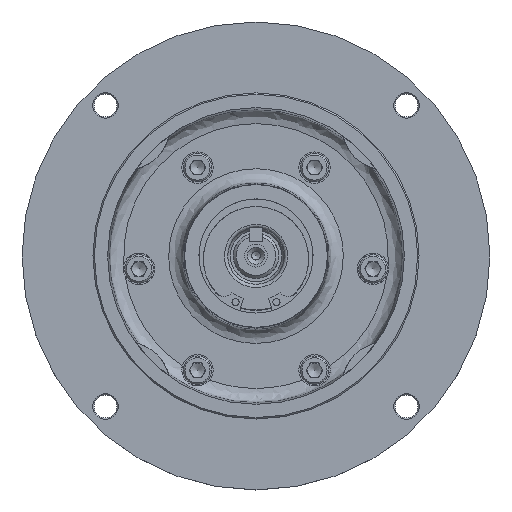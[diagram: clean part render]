
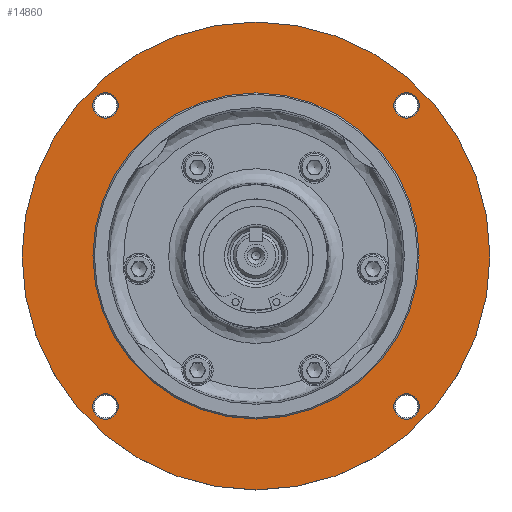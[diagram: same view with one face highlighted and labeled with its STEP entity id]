
A CAD part, top view. The second image highlights one B-rep face of the part: STEP entity #14860.
In plain terms, the highlighted planar face has unit normal (0, 0, 1).
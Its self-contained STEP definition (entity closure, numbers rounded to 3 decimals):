
#33 = EDGE_CURVE ( 'NONE', #14770, #14770, #4254, .T. ) ;
#166 = EDGE_LOOP ( 'NONE', ( #7629 ) ) ;
#421 = DIRECTION ( 'NONE',  ( 1., 0., 0. ) ) ;
#492 = VERTEX_POINT ( 'NONE', #7209 ) ;
#1576 = DIRECTION ( 'NONE',  ( 0., 0., -1. ) ) ;
#1926 = FACE_BOUND ( 'NONE', #10930, .T. ) ;
#1975 = CARTESIAN_POINT ( 'NONE',  ( 0., 4.5, 52.05 ) ) ;
#2028 = FACE_BOUND ( 'NONE', #6075, .T. ) ;
#2210 = EDGE_LOOP ( 'NONE', ( #14089 ) ) ;
#2262 = DIRECTION ( 'NONE',  ( 0., 0., -1. ) ) ;
#2457 = CARTESIAN_POINT ( 'NONE',  ( 0., 4.5, 52.05 ) ) ;
#2772 = AXIS2_PLACEMENT_3D ( 'NONE', #2457, #8075, #18154 ) ;
#3143 = CARTESIAN_POINT ( 'NONE',  ( 57.229, -48.26, 52.05 ) ) ;
#3576 = CIRCLE ( 'NONE', #9204, 4.469 ) ;
#4254 = CIRCLE ( 'NONE', #9233, 4.469 ) ;
#5356 = EDGE_CURVE ( 'NONE', #21763, #21763, #7435, .T. ) ;
#5480 = DIRECTION ( 'NONE',  ( 1., 0., 0. ) ) ;
#5661 = DIRECTION ( 'NONE',  ( 1., 0., 0. ) ) ;
#5886 = CIRCLE ( 'NONE', #18299, 4.469 ) ;
#6075 = EDGE_LOOP ( 'NONE', ( #15767 ) ) ;
#6865 = PLANE ( 'NONE',  #19877 ) ;
#7209 = CARTESIAN_POINT ( 'NONE',  ( -48.291, 57.26, 52.05 ) ) ;
#7435 = CIRCLE ( 'NONE', #18032, 4.469 ) ;
#7529 = EDGE_CURVE ( 'NONE', #20636, #20636, #18343, .T. ) ;
#7629 = ORIENTED_EDGE ( 'NONE', *, *, #7529, .T. ) ;
#8075 = DIRECTION ( 'NONE',  ( 0., 0., 1. ) ) ;
#8154 = EDGE_LOOP ( 'NONE', ( #18709 ) ) ;
#8661 = CARTESIAN_POINT ( 'NONE',  ( 57.15, 4.5, 52.05 ) ) ;
#8802 = AXIS2_PLACEMENT_3D ( 'NONE', #1975, #17007, #421 ) ;
#9204 = AXIS2_PLACEMENT_3D ( 'NONE', #16912, #20683, #5480 ) ;
#9233 = AXIS2_PLACEMENT_3D ( 'NONE', #11386, #18146, #16711 ) ;
#10930 = EDGE_LOOP ( 'NONE', ( #14093 ) ) ;
#11386 = CARTESIAN_POINT ( 'NONE',  ( -52.76, -48.26, 52.05 ) ) ;
#11490 = VERTEX_POINT ( 'NONE', #11596 ) ;
#11596 = CARTESIAN_POINT ( 'NONE',  ( 57.229, 57.26, 52.05 ) ) ;
#11971 = CARTESIAN_POINT ( 'NONE',  ( 0., 4.5, 52.05 ) ) ;
#12144 = EDGE_CURVE ( 'NONE', #492, #492, #5886, .T. ) ;
#12826 = ORIENTED_EDGE ( 'NONE', *, *, #5356, .T. ) ;
#13126 = CARTESIAN_POINT ( 'NONE',  ( -48.291, -48.26, 52.05 ) ) ;
#13201 = DIRECTION ( 'NONE',  ( 1., 0., 0. ) ) ;
#13295 = CARTESIAN_POINT ( 'NONE',  ( 82., 4.5, 52.05 ) ) ;
#13406 = CARTESIAN_POINT ( 'NONE',  ( 52.76, -48.26, 52.05 ) ) ;
#13432 = DIRECTION ( 'NONE',  ( 0., 0., 1. ) ) ;
#14089 = ORIENTED_EDGE ( 'NONE', *, *, #33, .T. ) ;
#14093 = ORIENTED_EDGE ( 'NONE', *, *, #12144, .T. ) ;
#14770 = VERTEX_POINT ( 'NONE', #13126 ) ;
#14860 = ADVANCED_FACE ( 'NONE', ( #15087, #1926, #2028, #18513, #18843, #15301 ), #6865, .T. ) ;
#15087 = FACE_OUTER_BOUND ( 'NONE', #8154, .T. ) ;
#15301 = FACE_BOUND ( 'NONE', #166, .T. ) ;
#15486 = DIRECTION ( 'NONE',  ( 1., 0., 0. ) ) ;
#15767 = ORIENTED_EDGE ( 'NONE', *, *, #20029, .T. ) ;
#16711 = DIRECTION ( 'NONE',  ( 1., 0., 0. ) ) ;
#16912 = CARTESIAN_POINT ( 'NONE',  ( 52.76, 57.26, 52.05 ) ) ;
#17007 = DIRECTION ( 'NONE',  ( 0., 0., -1. ) ) ;
#17964 = CIRCLE ( 'NONE', #2772, 82. ) ;
#18032 = AXIS2_PLACEMENT_3D ( 'NONE', #13406, #1576, #13201 ) ;
#18146 = DIRECTION ( 'NONE',  ( 0., 0., -1. ) ) ;
#18154 = DIRECTION ( 'NONE',  ( 1., 0., 0. ) ) ;
#18299 = AXIS2_PLACEMENT_3D ( 'NONE', #19069, #2262, #5661 ) ;
#18343 = CIRCLE ( 'NONE', #8802, 57.15 ) ;
#18513 = FACE_BOUND ( 'NONE', #20533, .T. ) ;
#18709 = ORIENTED_EDGE ( 'NONE', *, *, #20414, .T. ) ;
#18843 = FACE_BOUND ( 'NONE', #2210, .T. ) ;
#19069 = CARTESIAN_POINT ( 'NONE',  ( -52.76, 57.26, 52.05 ) ) ;
#19877 = AXIS2_PLACEMENT_3D ( 'NONE', #11971, #13432, #15486 ) ;
#20029 = EDGE_CURVE ( 'NONE', #11490, #11490, #3576, .T. ) ;
#20414 = EDGE_CURVE ( 'NONE', #21591, #21591, #17964, .T. ) ;
#20533 = EDGE_LOOP ( 'NONE', ( #12826 ) ) ;
#20636 = VERTEX_POINT ( 'NONE', #8661 ) ;
#20683 = DIRECTION ( 'NONE',  ( 0., 0., -1. ) ) ;
#21591 = VERTEX_POINT ( 'NONE', #13295 ) ;
#21763 = VERTEX_POINT ( 'NONE', #3143 ) ;
